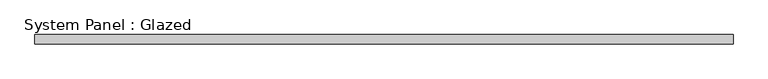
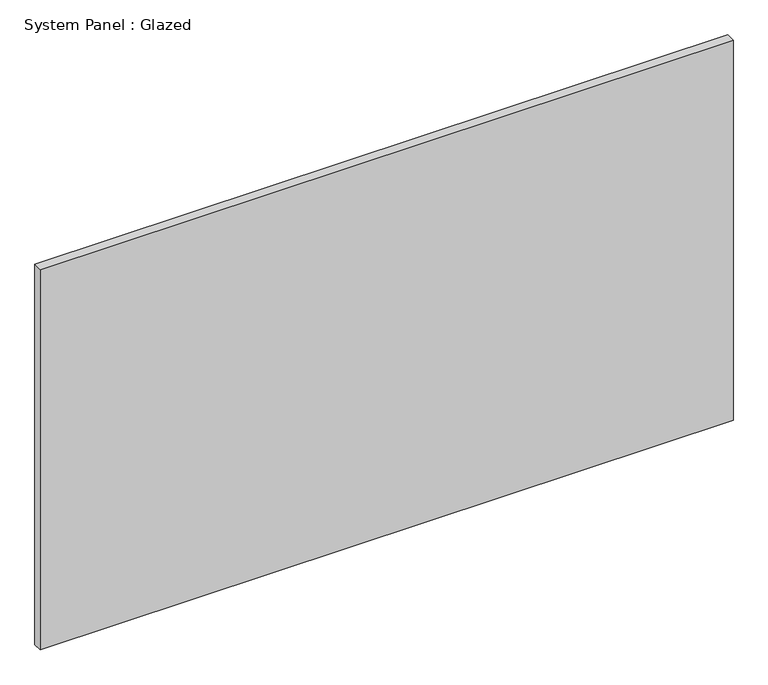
"""IFC4 building model written with IfcOpenShell, lengths in millimetres: plate geometry, System Panel : Glazed."""

import ifcopenshell
import ifcopenshell.guid

model = None  # the IFC model being written
_history = None  # IfcOwnerHistory: only IFC2X3 demands one
_inside = {}  # id of a spatial element -> (the spatial element, [elements in it])
_under = {}  # id of a project, library or spatial element -> (it, [spatial elements below it])
_declared = {}  # id of a project -> (the project, [libraries it declares])
_typed = {}  # id of a type object -> (the type object, [elements of that type])
_made_of = {}  # id of a material, layer set ... -> (it, [elements and type objects made of it])


def new_model(schema):
    """Start an empty IFC model of exactly this schema.

    Asked for "IFC4X3", IfcOpenShell would pick the latest addendum, in which some entities
    have other attributes; the version numbers below select the first issue.
    IFC2X3 requires an IfcOwnerHistory on every rooted entity: one is made here for all.
    """
    global model, _history
    if schema == "IFC4X3":
        model = ifcopenshell.file(schema_version=(4, 3, 0, 0))
    else:
        model = ifcopenshell.file(schema=schema)
    _inside.clear()
    _under.clear()
    _declared.clear()
    _typed.clear()
    _made_of.clear()
    _history = None
    if model.schema == "IFC2X3":
        org = make("IfcOrganization", Name="unknown")
        user = make(
            "IfcPersonAndOrganization",
            ThePerson=make("IfcPerson", FamilyName="unknown"),
            TheOrganization=org,
        )
        app = make(
            "IfcApplication",
            ApplicationDeveloper=org,
            Version="unknown",
            ApplicationFullName="unknown",
            ApplicationIdentifier="unknown",
        )
        _history = make(
            "IfcOwnerHistory",
            OwningUser=user,
            OwningApplication=app,
            ChangeAction="ADDED",
            CreationDate=0,
        )
    return model


def make(cls, **values):
    """One entity of the class cls with the attributes given. An attribute that is None is left unset."""
    return model.create_entity(
        cls, **{name: value for name, value in values.items() if value is not None}
    )


def rooted(cls, **values):
    """An entity with a GlobalId (a new one), such as an element, a storey or a relation."""
    return make(cls, GlobalId=ifcopenshell.guid.new(), OwnerHistory=_history, **values)


def si_unit(unit_type, name, prefix=None):
    """IfcSIUnit, for example si_unit("LENGTHUNIT", "METRE", prefix="MILLI")."""
    return make("IfcSIUnit", UnitType=unit_type, Prefix=prefix, Name=name)


def assignment(units):
    """IfcUnitAssignment: the units of a project."""
    return None if units is None else make("IfcUnitAssignment", Units=units)


def point(xyz):
    """IfcCartesianPoint."""
    return None if xyz is None else make("IfcCartesianPoint", Coordinates=xyz)


def direction(xyz):
    """IfcDirection."""
    return None if xyz is None else make("IfcDirection", DirectionRatios=xyz)


def frame(location, z_axis=None, x_axis=None):
    """IfcAxis2Placement3D, a coordinate frame: its origin and axes. An axis left out is left unset."""
    return make(
        "IfcAxis2Placement3D",
        Location=point(location),
        Axis=direction(z_axis),
        RefDirection=direction(x_axis),
    )


def origin():
    """The frame at (0, 0, 0) with its axes left unset."""
    return frame((0.0, 0.0, 0.0))


def origin_with_axes():
    """The frame at (0, 0, 0) with the z axis (0, 0, 1) and the x axis (1, 0, 0) written out."""
    return frame((0.0, 0.0, 0.0), z_axis=(0.0, 0.0, 1.0), x_axis=(1.0, 0.0, 0.0))


def place(relative_to, where):
    """IfcLocalPlacement: puts the frame where relative to a parent placement (None: the world)."""
    return make(
        "IfcLocalPlacement", PlacementRelTo=relative_to, RelativePlacement=where
    )


def context(
    kind, dimensions, precision=None, world=None, true_north=None, identifier=None
):
    """IfcGeometricRepresentationContext, for example the 3D "Model" context."""
    return make(
        "IfcGeometricRepresentationContext",
        ContextIdentifier=identifier,
        ContextType=kind,
        CoordinateSpaceDimension=dimensions,
        Precision=precision,
        WorldCoordinateSystem=world,
        TrueNorth=true_north,
    )


def project(units=None, contexts=None):
    """IfcProject with its units and contexts."""
    return rooted(
        "IfcProject",
        Name="project",
        RepresentationContexts=contexts,
        UnitsInContext=assignment(units),
    )


def spatial(cls, under=None, at=None, **own):
    """A site, building, storey or space (cls), placed at a placement, below another one or the project."""
    s = rooted(cls, ObjectPlacement=at, **own)
    if under is not None:
        _under.setdefault(under.id(), (under, []))[1].append(s)
    return s


def polyline(points):
    """IfcPolyline through the points."""
    return make("IfcPolyline", Points=[point(p) for p in points])


def outline(outer, holes=None, kind="AREA"):
    """IfcArbitraryClosedProfileDef: a profile drawn as a closed curve; with holes, ...WithVoids."""
    if holes is None:
        return make("IfcArbitraryClosedProfileDef", ProfileType=kind, OuterCurve=outer)
    return make(
        "IfcArbitraryProfileDefWithVoids",
        ProfileType=kind,
        OuterCurve=outer,
        InnerCurves=holes,
    )


def extrude(swept, where, along, depth):
    """IfcExtrudedAreaSolid: the profile swept, set in the frame where, extruded along a direction by depth."""
    return make(
        "IfcExtrudedAreaSolid",
        SweptArea=swept,
        Position=where,
        ExtrudedDirection=direction(along),
        Depth=depth,
    )


def shape(context_of_items, identifier, shape_type, items):
    """IfcShapeRepresentation: the items that make up one representation, for example the "Body"."""
    return make(
        "IfcShapeRepresentation",
        ContextOfItems=context_of_items,
        RepresentationIdentifier=identifier,
        RepresentationType=shape_type,
        Items=items,
    )


def source(mapping_origin, context_of_items, identifier, shape_type, items):
    """IfcRepresentationMap: a shape defined once, which mapped items show again and again."""
    return make(
        "IfcRepresentationMap",
        MappingOrigin=mapping_origin,
        MappedRepresentation=shape(context_of_items, identifier, shape_type, items),
    )


def transform(
    local_origin,
    x_axis=None,
    y_axis=None,
    z_axis=None,
    scale=None,
    scale2=None,
    scale3=None,
    uniform=True,
):
    """IfcCartesianTransformationOperator3D, or its non-uniform kind. x_axis, y_axis, z_axis: its Axis1, 2, 3."""
    if uniform:
        return make(
            "IfcCartesianTransformationOperator3D",
            Axis1=direction(x_axis),
            Axis2=direction(y_axis),
            LocalOrigin=point(local_origin),
            Scale=scale,
            Axis3=direction(z_axis),
        )
    return make(
        "IfcCartesianTransformationOperator3DnonUniform",
        Axis1=direction(x_axis),
        Axis2=direction(y_axis),
        LocalOrigin=point(local_origin),
        Scale=scale,
        Axis3=direction(z_axis),
        Scale2=scale2,
        Scale3=scale3,
    )


def mapped(mapping_source, mapping_target):
    """IfcMappedItem: shows the shape of a source again, moved by a transform."""
    return make(
        "IfcMappedItem", MappingSource=mapping_source, MappingTarget=mapping_target
    )


def made_of(thing, what):
    """Note that an element or type object is made of a material, layer set ...; save() writes the relation."""
    if what is not None:
        _made_of.setdefault(what.id(), (what, []))[1].append(thing)
    return thing


def element(
    cls,
    number,
    at=None,
    inside=None,
    cuts=None,
    type_object=None,
    material=None,
    context=None,
    identifier="Body",
    shape_type=None,
    held_by="IfcProductDefinitionShape",
    body=None,
    shapes=None,
    **own,
):
    """One element of the class cls, such as IfcWall. Its Tag is "e" and its number.

    at: its placement. inside: the storey or other place that contains it. cuts: it is an
    opening in that element (IfcRelVoidsElement). A single representation is given by context,
    identifier, shape_type and body (its items); several are given by shapes. held_by: the class
    of the entity that holds the representations. save() writes the other relations.
    """
    e = rooted(cls, Tag="e%d" % number, ObjectPlacement=at, **own)
    if body is not None:
        shapes = [shape(context, identifier, shape_type, body)]
    if shapes is not None:
        e.Representation = make(held_by, Representations=shapes)
    if inside is not None:
        _inside.setdefault(inside.id(), (inside, []))[1].append(e)
    if cuts is not None:
        rooted(
            "IfcRelVoidsElement", RelatingBuildingElement=cuts, RelatedOpeningElement=e
        )
    if type_object is not None:
        _typed.setdefault(type_object.id(), (type_object, []))[1].append(e)
    return made_of(e, material)


def aggregate(whole, parts):
    """IfcRelAggregates: a whole, such as a stair, and the parts it consists of."""
    return rooted("IfcRelAggregates", RelatingObject=whole, RelatedObjects=parts)


def save(model, path):
    """Write the relations noted so far, then the file.

    IfcRelAggregates (storeys below a building ...), IfcRelContainedInSpatialStructure (elements
    in a storey), IfcRelDefinesByType, IfcRelAssociatesMaterial and IfcRelDeclares: one each for
    every whole, place, type object, material and project.
    """
    for whole, parts in _under.values():
        aggregate(whole, parts)
    for where, things in _inside.values():
        rooted(
            "IfcRelContainedInSpatialStructure",
            RelatedElements=things,
            RelatingStructure=where,
        )
    for kind, things in _typed.values():
        rooted("IfcRelDefinesByType", RelatedObjects=things, RelatingType=kind)
    for what, things in _made_of.values():
        rooted("IfcRelAssociatesMaterial", RelatedObjects=things, RelatingMaterial=what)
    for by, libraries in _declared.values():
        rooted("IfcRelDeclares", RelatingContext=by, RelatedDefinitions=libraries)
    model.write(path)


def system_panel_glazed_f46199af(model_context):
    return source(origin(), model_context, "Body", "SweptSolid", [
        extrude(outline(polyline([(968.375, -44.45), (-968.375, -44.45), (-968.375, -19.05), (968.375, -19.05), (968.375, -44.45)])), origin_with_axes(), (0.0, 0.0, 1.0), 1123.95),
    ])


if __name__ == "__main__":
    model = new_model("IFC4")
    model_context = context("Model", 3, world=origin())
    ifc_project = project(units=[si_unit("LENGTHUNIT", "METRE", prefix="MILLI")], contexts=[model_context])
    site = spatial("IfcSite", under=ifc_project)
    building = spatial("IfcBuilding", under=site)
    placement = place(None, origin())
    system_panel_glazed_shape = system_panel_glazed_f46199af(model_context)
    element("IfcPlate", 1, ObjectType="System Panel : Glazed", at=placement, inside=building, context=model_context, shape_type="MappedRepresentation", body=[
        mapped(system_panel_glazed_shape, transform((0.0, 0.0, 0.0), x_axis=(1.0, 0.0, 0.0), y_axis=(0.0, 1.0, 0.0), z_axis=(0.0, 0.0, 1.0))),
    ])
    save(model, "model.ifc")
